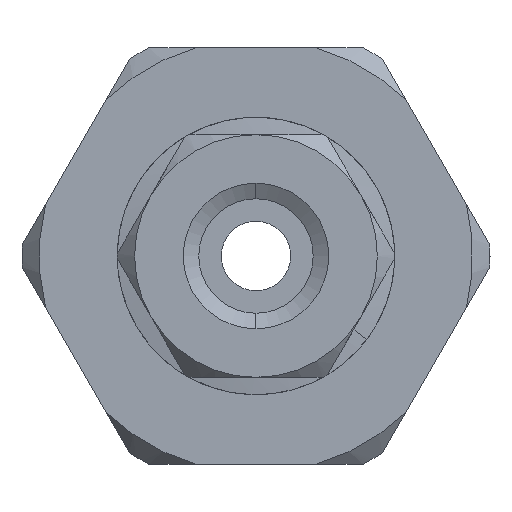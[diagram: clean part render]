
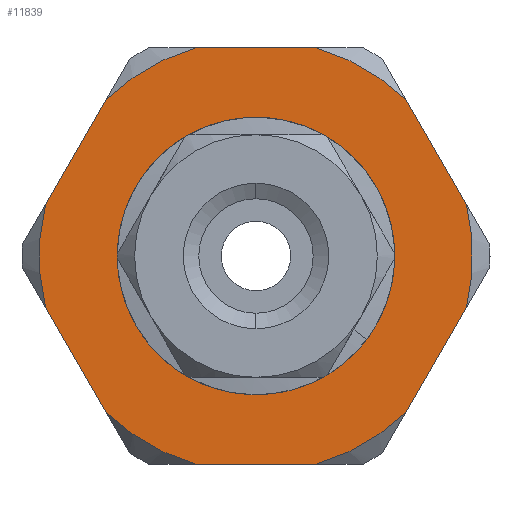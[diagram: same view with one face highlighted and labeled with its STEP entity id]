
A CAD part, front view. The second image highlights one B-rep face of the part: STEP entity #11839.
In plain terms, the highlighted planar face has unit normal (0, -1, 0).
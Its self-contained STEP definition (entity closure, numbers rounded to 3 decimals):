
#11 = CARTESIAN_POINT ( 'NONE',  ( -0.355, 13.325, 14. ) ) ;
#516 = EDGE_CURVE ( 'NONE', #15250, #5364, #1434, .T. ) ;
#660 = VERTEX_POINT ( 'NONE', #14512 ) ;
#913 = CARTESIAN_POINT ( 'NONE',  ( -0.355, 13.325, 14. ) ) ;
#962 = DIRECTION ( 'NONE',  ( 0., 1., 0. ) ) ;
#1208 = DIRECTION ( 'NONE',  ( 0.5, 0., -0.866 ) ) ;
#1328 = DIRECTION ( 'NONE',  ( 0.866, 0., 0.5 ) ) ;
#1434 = LINE ( 'NONE', #16401, #1838 ) ;
#1838 = VECTOR ( 'NONE', #3835, 1000. ) ;
#1921 = CARTESIAN_POINT ( 'NONE',  ( -0.355, 13.325, 14. ) ) ;
#2113 = VERTEX_POINT ( 'NONE', #10927 ) ;
#2241 = DIRECTION ( 'NONE',  ( 0.866, 0., 0.5 ) ) ;
#2308 = VERTEX_POINT ( 'NONE', #3637 ) ;
#2532 = ORIENTED_EDGE ( 'NONE', *, *, #13170, .F. ) ;
#2568 = CARTESIAN_POINT ( 'NONE',  ( 3.966, 13.325, 18.516 ) ) ;
#2659 = EDGE_LOOP ( 'NONE', ( #6980, #2532 ) ) ;
#2786 = AXIS2_PLACEMENT_3D ( 'NONE', #4374, #13348, #5668 ) ;
#3199 = DIRECTION ( 'NONE',  ( 0.866, 0., 0.5 ) ) ;
#3217 = VERTEX_POINT ( 'NONE', #2568 ) ;
#3281 = VERTEX_POINT ( 'NONE', #7926 ) ;
#3394 = ORIENTED_EDGE ( 'NONE', *, *, #4945, .F. ) ;
#3637 = CARTESIAN_POINT ( 'NONE',  ( 2.676, 13.325, 15.75 ) ) ;
#3835 = DIRECTION ( 'NONE',  ( -0.5, 0., -0.866 ) ) ;
#3950 = ORIENTED_EDGE ( 'NONE', *, *, #10975, .F. ) ;
#4374 = CARTESIAN_POINT ( 'NONE',  ( -0.355, 13.325, 14. ) ) ;
#4471 = EDGE_CURVE ( 'NONE', #15744, #8938, #12310, .T. ) ;
#4528 = DIRECTION ( 'NONE',  ( 0., 1., 0. ) ) ;
#4677 = CARTESIAN_POINT ( 'NONE',  ( -2.105, 13.325, 20. ) ) ;
#4945 = EDGE_CURVE ( 'NONE', #13094, #10303, #11688, .T. ) ;
#5310 = LINE ( 'NONE', #8935, #12122 ) ;
#5364 = VERTEX_POINT ( 'NONE', #15503 ) ;
#5555 = CIRCLE ( 'NONE', #9577, 3.5 ) ;
#5575 = DIRECTION ( 'NONE',  ( -0.5, 0., 0.866 ) ) ;
#5668 = DIRECTION ( 'NONE',  ( 0.866, 0., 0.5 ) ) ;
#5852 = LINE ( 'NONE', #8910, #15677 ) ;
#6019 = CARTESIAN_POINT ( 'NONE',  ( -4.676, 13.325, 18.516 ) ) ;
#6085 = VERTEX_POINT ( 'NONE', #6019 ) ;
#6242 = DIRECTION ( 'NONE',  ( 0., -1., 0. ) ) ;
#6285 = EDGE_CURVE ( 'NONE', #14567, #3217, #12625, .T. ) ;
#6313 = LINE ( 'NONE', #16339, #12743 ) ;
#6362 = CARTESIAN_POINT ( 'NONE',  ( -0.355, 13.325, 14. ) ) ;
#6540 = CARTESIAN_POINT ( 'NONE',  ( -2.105, 13.325, 8. ) ) ;
#6598 = CARTESIAN_POINT ( 'NONE',  ( -8.714, 13.325, 16.478 ) ) ;
#6894 = CARTESIAN_POINT ( 'NONE',  ( -3.447, 13.325, 8. ) ) ;
#6980 = ORIENTED_EDGE ( 'NONE', *, *, #8697, .F. ) ;
#6993 = CIRCLE ( 'NONE', #13960, 6.25 ) ;
#7210 = CIRCLE ( 'NONE', #15495, 6.25 ) ;
#7657 = DIRECTION ( 'NONE',  ( 0.866, 0., 0.5 ) ) ;
#7894 = DIRECTION ( 'NONE',  ( 0.866, 0., 0.5 ) ) ;
#7926 = CARTESIAN_POINT ( 'NONE',  ( -6.426, 13.325, 15.484 ) ) ;
#7993 = AXIS2_PLACEMENT_3D ( 'NONE', #913, #9914, #2241 ) ;
#8152 = CARTESIAN_POINT ( 'NONE',  ( -4.676, 13.325, 9.484 ) ) ;
#8395 = CIRCLE ( 'NONE', #16105, 3.5 ) ;
#8446 = CIRCLE ( 'NONE', #14906, 6.25 ) ;
#8552 = ORIENTED_EDGE ( 'NONE', *, *, #9821, .F. ) ;
#8678 = CARTESIAN_POINT ( 'NONE',  ( -0.355, 13.325, 14. ) ) ;
#8697 = EDGE_CURVE ( 'NONE', #2308, #660, #8395, .T. ) ;
#8733 = VERTEX_POINT ( 'NONE', #4677 ) ;
#8910 = CARTESIAN_POINT ( 'NONE',  ( 4.841, 13.325, 17. ) ) ;
#8935 = CARTESIAN_POINT ( 'NONE',  ( -4.005, 13.325, 19.678 ) ) ;
#8938 = VERTEX_POINT ( 'NONE', #15218 ) ;
#9027 = DIRECTION ( 'NONE',  ( 0., 1., 0. ) ) ;
#9068 = CIRCLE ( 'NONE', #2786, 6.25 ) ;
#9425 = EDGE_CURVE ( 'NONE', #6085, #8733, #9068, .T. ) ;
#9577 = AXIS2_PLACEMENT_3D ( 'NONE', #13931, #6242, #15225 ) ;
#9578 = FACE_OUTER_BOUND ( 'NONE', #10319, .T. ) ;
#9774 = ORIENTED_EDGE ( 'NONE', *, *, #6285, .F. ) ;
#9821 = EDGE_CURVE ( 'NONE', #3217, #2113, #5852, .T. ) ;
#9914 = DIRECTION ( 'NONE',  ( 0., 1., 0. ) ) ;
#9948 = DIRECTION ( 'NONE',  ( 1., 0., 0. ) ) ;
#9966 = DIRECTION ( 'NONE',  ( 0.866, 0., 0.5 ) ) ;
#10199 = EDGE_CURVE ( 'NONE', #8938, #3281, #8446, .T. ) ;
#10280 = CARTESIAN_POINT ( 'NONE',  ( 5.716, 13.325, 12.516 ) ) ;
#10303 = VERTEX_POINT ( 'NONE', #6540 ) ;
#10319 = EDGE_LOOP ( 'NONE', ( #10324, #11779, #14169, #8552, #9774, #13973, #14585, #14976, #15383, #15399, #3950, #3394 ) ) ;
#10324 = ORIENTED_EDGE ( 'NONE', *, *, #14178, .F. ) ;
#10608 = CIRCLE ( 'NONE', #7993, 6.25 ) ;
#10892 = DIRECTION ( 'NONE',  ( 0., -1., 0. ) ) ;
#10927 = CARTESIAN_POINT ( 'NONE',  ( 5.716, 13.325, 15.484 ) ) ;
#10975 = EDGE_CURVE ( 'NONE', #10303, #15744, #6993, .T. ) ;
#11128 = AXIS2_PLACEMENT_3D ( 'NONE', #8678, #962, #9966 ) ;
#11478 = DIRECTION ( 'NONE',  ( 0.5, 0., 0.866 ) ) ;
#11688 = LINE ( 'NONE', #6894, #15088 ) ;
#11703 = CARTESIAN_POINT ( 'NONE',  ( 1.395, 13.325, 20. ) ) ;
#11779 = ORIENTED_EDGE ( 'NONE', *, *, #516, .F. ) ;
#11839 = ADVANCED_FACE ( 'NONE', ( #13416, #9578 ), #14418, .F. ) ;
#11958 = CARTESIAN_POINT ( 'NONE',  ( -5.551, 13.325, 11. ) ) ;
#12122 = VECTOR ( 'NONE', #11478, 1000. ) ;
#12217 = CARTESIAN_POINT ( 'NONE',  ( -0.355, 13.325, 14. ) ) ;
#12221 = EDGE_CURVE ( 'NONE', #2113, #15250, #7210, .T. ) ;
#12310 = LINE ( 'NONE', #11958, #15712 ) ;
#12370 = AXIS2_PLACEMENT_3D ( 'NONE', #6598, #15599, #7894 ) ;
#12625 = CIRCLE ( 'NONE', #11128, 6.25 ) ;
#12743 = VECTOR ( 'NONE', #9948, 1000. ) ;
#13094 = VERTEX_POINT ( 'NONE', #13826 ) ;
#13170 = EDGE_CURVE ( 'NONE', #660, #2308, #5555, .T. ) ;
#13348 = DIRECTION ( 'NONE',  ( 0., 1., 0. ) ) ;
#13416 = FACE_BOUND ( 'NONE', #2659, .T. ) ;
#13503 = DIRECTION ( 'NONE',  ( 0.866, 0., 0.5 ) ) ;
#13826 = CARTESIAN_POINT ( 'NONE',  ( 1.395, 13.325, 8. ) ) ;
#13931 = CARTESIAN_POINT ( 'NONE',  ( -0.355, 13.325, 14. ) ) ;
#13960 = AXIS2_PLACEMENT_3D ( 'NONE', #6362, #15346, #7657 ) ;
#13973 = ORIENTED_EDGE ( 'NONE', *, *, #16032, .F. ) ;
#14169 = ORIENTED_EDGE ( 'NONE', *, *, #12221, .F. ) ;
#14178 = EDGE_CURVE ( 'NONE', #5364, #13094, #10608, .T. ) ;
#14418 = PLANE ( 'NONE',  #12370 ) ;
#14512 = CARTESIAN_POINT ( 'NONE',  ( -3.386, 13.325, 12.25 ) ) ;
#14567 = VERTEX_POINT ( 'NONE', #11703 ) ;
#14585 = ORIENTED_EDGE ( 'NONE', *, *, #9425, .F. ) ;
#14590 = DIRECTION ( 'NONE',  ( -1., 0., 0. ) ) ;
#14906 = AXIS2_PLACEMENT_3D ( 'NONE', #11, #9027, #1328 ) ;
#14976 = ORIENTED_EDGE ( 'NONE', *, *, #16123, .F. ) ;
#15088 = VECTOR ( 'NONE', #14590, 1000. ) ;
#15218 = CARTESIAN_POINT ( 'NONE',  ( -6.426, 13.325, 12.516 ) ) ;
#15225 = DIRECTION ( 'NONE',  ( 0.866, 0., 0.5 ) ) ;
#15250 = VERTEX_POINT ( 'NONE', #10280 ) ;
#15346 = DIRECTION ( 'NONE',  ( 0., 1., 0. ) ) ;
#15383 = ORIENTED_EDGE ( 'NONE', *, *, #10199, .F. ) ;
#15399 = ORIENTED_EDGE ( 'NONE', *, *, #4471, .F. ) ;
#15495 = AXIS2_PLACEMENT_3D ( 'NONE', #12217, #4528, #13503 ) ;
#15503 = CARTESIAN_POINT ( 'NONE',  ( 3.966, 13.325, 9.484 ) ) ;
#15599 = DIRECTION ( 'NONE',  ( 0., 1., 0. ) ) ;
#15677 = VECTOR ( 'NONE', #1208, 1000. ) ;
#15712 = VECTOR ( 'NONE', #5575, 1000. ) ;
#15744 = VERTEX_POINT ( 'NONE', #8152 ) ;
#16032 = EDGE_CURVE ( 'NONE', #8733, #14567, #6313, .T. ) ;
#16105 = AXIS2_PLACEMENT_3D ( 'NONE', #1921, #10892, #3199 ) ;
#16123 = EDGE_CURVE ( 'NONE', #3281, #6085, #5310, .T. ) ;
#16339 = CARTESIAN_POINT ( 'NONE',  ( 2.737, 13.325, 20. ) ) ;
#16401 = CARTESIAN_POINT ( 'NONE',  ( 3.295, 13.325, 8.322 ) ) ;
